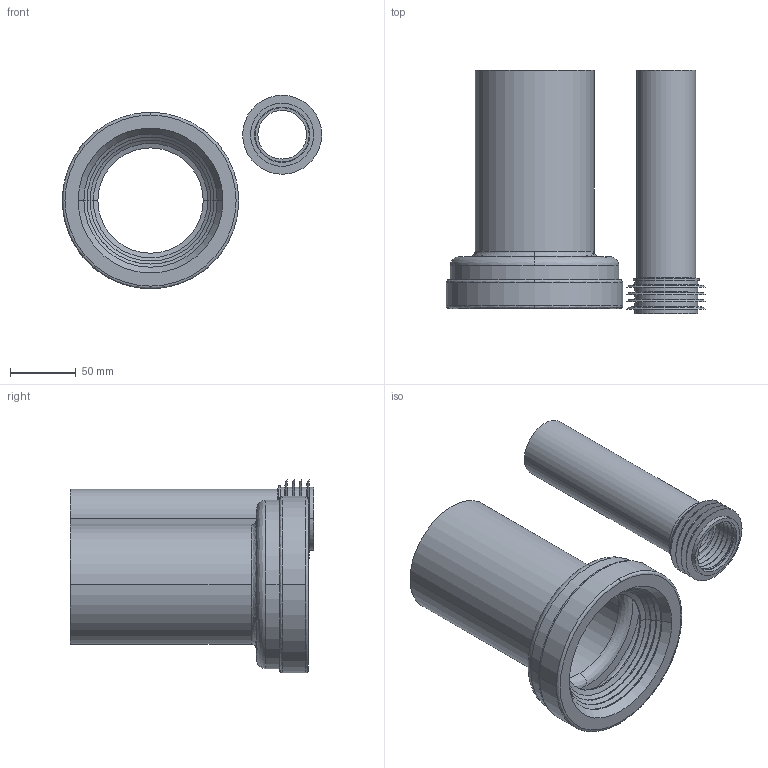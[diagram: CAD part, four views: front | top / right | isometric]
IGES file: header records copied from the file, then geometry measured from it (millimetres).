
Start section: Data from XPlus IGES,  Spatial Corp. Copyright (c) 1999-2004
Global section: file name: 152404.igs; native system:  By Spatial Corp.; preprocessor: XPlus ACIS/IGES 3.0; author: Noname; organization: Noname; date: 20210802.114312; units: millimetre
Bounding box: 197 x 185 x 147 mm (x, y, z)
Surface area: 227861.2 mm2 (no closed solid volume)
Topology: 0 solids, 0 shells, 189 faces, 888 edges, 888 vertices
Faces by surface type: revolution 164, extrusion 25
